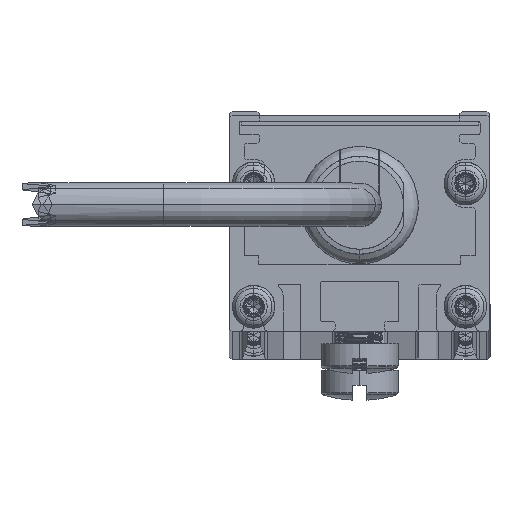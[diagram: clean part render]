
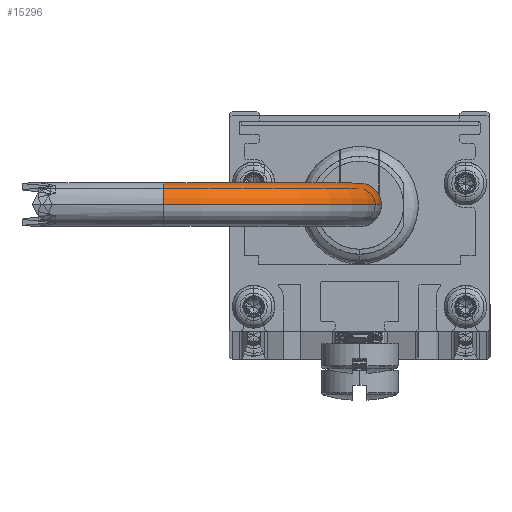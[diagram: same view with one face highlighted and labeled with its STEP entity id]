
A CAD part, top view. The second image highlights one B-rep face of the part: STEP entity #15296.
In plain terms, the highlighted toroidal (fillet/blend) face has major radius 25.4 mm and minor radius 2.845 mm.
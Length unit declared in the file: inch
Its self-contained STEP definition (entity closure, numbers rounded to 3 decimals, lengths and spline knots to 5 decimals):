
#191 = CARTESIAN_POINT ( 'NONE',  ( 1., 0., -1.888 ) ) ;
#476 = CARTESIAN_POINT ( 'NONE',  ( 1., 0., -1. ) ) ;
#1545 = AXIS2_PLACEMENT_3D ( 'NONE', #16160, #5927, #7412 ) ;
#1642 = CIRCLE ( 'NONE', #4942, 0.112 ) ;
#1729 = DIRECTION ( 'NONE',  ( 1., 0., 0. ) ) ;
#2004 = CIRCLE ( 'NONE', #13911, 0.888 ) ;
#2896 = CARTESIAN_POINT ( 'NONE',  ( 1., 0., -2.112 ) ) ;
#3066 = AXIS2_PLACEMENT_3D ( 'NONE', #8416, #15599, #18578 ) ;
#3461 = ORIENTED_EDGE ( 'NONE', *, *, #11006, .T. ) ;
#4660 = CIRCLE ( 'NONE', #3066, 1.112 ) ;
#4709 = VERTEX_POINT ( 'NONE', #17067 ) ;
#4942 = AXIS2_PLACEMENT_3D ( 'NONE', #10859, #18181, #12375 ) ;
#5330 = AXIS2_PLACEMENT_3D ( 'NONE', #476, #7875, #9347 ) ;
#5927 = DIRECTION ( 'NONE',  ( -1., 0., 0. ) ) ;
#6052 = ORIENTED_EDGE ( 'NONE', *, *, #6503, .F. ) ;
#6311 = EDGE_LOOP ( 'NONE', ( #6052, #10811, #3461, #17800 ) ) ;
#6399 = TOROIDAL_SURFACE ( 'NONE', #5330, 1., 0.112 ) ;
#6503 = EDGE_CURVE ( 'NONE', #4709, #17518, #4660, .T. ) ;
#6913 = FACE_OUTER_BOUND ( 'NONE', #6311, .T. ) ;
#7412 = DIRECTION ( 'NONE',  ( 0., 0., 1. ) ) ;
#7875 = DIRECTION ( 'NONE',  ( 0., -1., 0. ) ) ;
#8416 = CARTESIAN_POINT ( 'NONE',  ( 1., 0., -1. ) ) ;
#9347 = DIRECTION ( 'NONE',  ( 0., 0., -1. ) ) ;
#9427 = VERTEX_POINT ( 'NONE', #191 ) ;
#9692 = CARTESIAN_POINT ( 'NONE',  ( 0.112, 0., -1. ) ) ;
#10811 = ORIENTED_EDGE ( 'NONE', *, *, #15859, .F. ) ;
#10859 = CARTESIAN_POINT ( 'NONE',  ( 0., 0., -1. ) ) ;
#11006 = EDGE_CURVE ( 'NONE', #14263, #9427, #2004, .T. ) ;
#11605 = EDGE_CURVE ( 'NONE', #9427, #17518, #14039, .T. ) ;
#12375 = DIRECTION ( 'NONE',  ( 1., 0., 0. ) ) ;
#13911 = AXIS2_PLACEMENT_3D ( 'NONE', #17667, #16313, #1729 ) ;
#14039 = CIRCLE ( 'NONE', #1545, 0.112 ) ;
#14263 = VERTEX_POINT ( 'NONE', #9692 ) ;
#15296 = ADVANCED_FACE ( 'NONE', ( #6913 ), #6399, .T. ) ;
#15599 = DIRECTION ( 'NONE',  ( 0., -1., 0. ) ) ;
#15859 = EDGE_CURVE ( 'NONE', #14263, #4709, #1642, .T. ) ;
#16160 = CARTESIAN_POINT ( 'NONE',  ( 1., 0., -2. ) ) ;
#16313 = DIRECTION ( 'NONE',  ( 0., -1., 0. ) ) ;
#17067 = CARTESIAN_POINT ( 'NONE',  ( -0.112, 0., -1. ) ) ;
#17518 = VERTEX_POINT ( 'NONE', #2896 ) ;
#17667 = CARTESIAN_POINT ( 'NONE',  ( 1., 0., -1. ) ) ;
#17800 = ORIENTED_EDGE ( 'NONE', *, *, #11605, .T. ) ;
#18181 = DIRECTION ( 'NONE',  ( 0., 0., 1. ) ) ;
#18578 = DIRECTION ( 'NONE',  ( 1., 0., 0. ) ) ;
